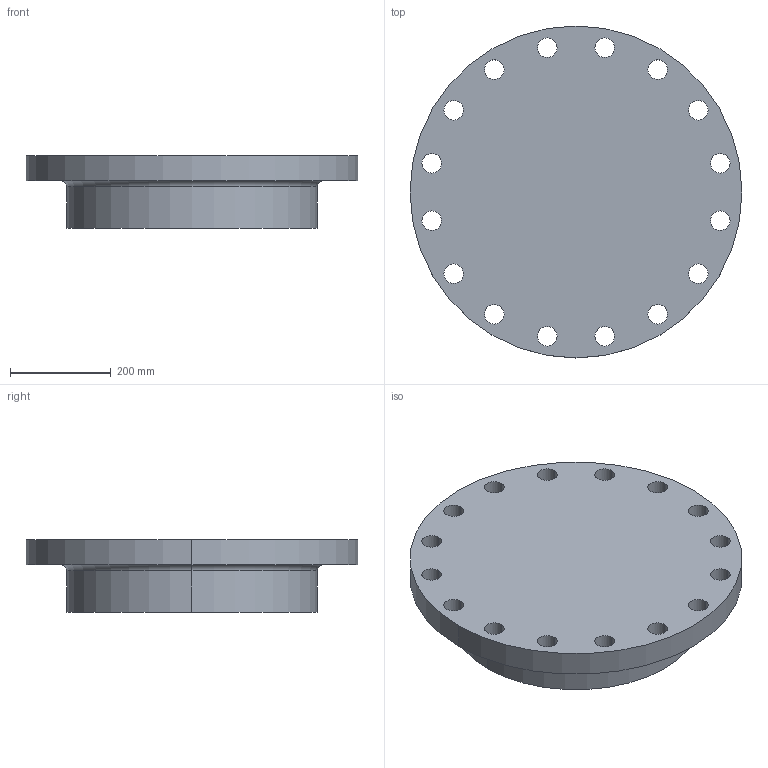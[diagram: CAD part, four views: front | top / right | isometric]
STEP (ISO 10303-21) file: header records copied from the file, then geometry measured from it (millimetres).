
FILE_DESCRIPTION (( 'STEP AP214' ), '1' );
FILE_NAME ('PN40 DN400 Type 21(i) - Type A Face.STEP', '2019-01-05T23:14:27', ( '' ), ( '' ), 'SwSTEP 2.0', 'SolidWorks 2019', '' );
FILE_SCHEMA (( 'AUTOMOTIVE_DESIGN' ));
Length unit declared in the file: millimetre
Products named in the file (1): PN40 DN400 Type 21(i) - Type A Face
Bounding box: 660 x 660 x 145 mm (x, y, z)
Volume: 34703446.8 mm3; surface area: 988337.1 mm2
Topology: 1 solids, 1 shells, 41 faces, 112 edges, 74 vertices
Faces by surface type: cylinder 36, plane 3, torus 2
Entity records: 1444 total; most frequent: DIRECTION 272, CARTESIAN_POINT 228, ORIENTED_EDGE 224, AXIS2_PLACEMENT_3D 118, EDGE_CURVE 112, CIRCLE 76, EDGE_LOOP 74, VERTEX_POINT 74
